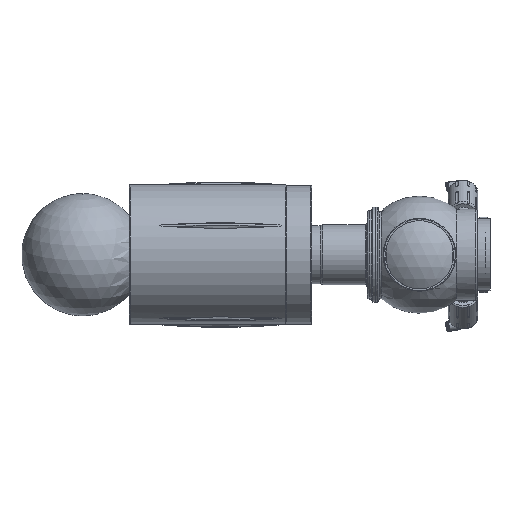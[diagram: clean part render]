
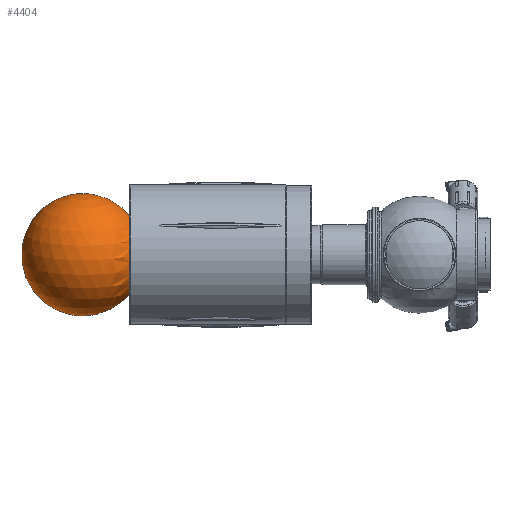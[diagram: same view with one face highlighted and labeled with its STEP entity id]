
A CAD part, left-side view. The second image highlights one B-rep face of the part: STEP entity #4404.
In plain terms, the highlighted spherical face has radius 72.5 mm.
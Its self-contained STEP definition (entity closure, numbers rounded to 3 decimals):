
#174=FACE_BOUND('',#1300,.T.);
#801=SPHERICAL_SURFACE('',#4934,72.5);
#1041=FACE_OUTER_BOUND('',#1299,.T.);
#1299=EDGE_LOOP('',(#3480,#3481));
#1300=EDGE_LOOP('',(#3482));
#1623=CIRCLE('',#4935,72.5);
#1624=CIRCLE('',#4936,46.648);
#1978=VERTEX_POINT('',#7729);
#1979=VERTEX_POINT('',#7730);
#1980=VERTEX_POINT('',#7732);
#2530=EDGE_CURVE('',#1978,#1979,#1623,.T.);
#2531=EDGE_CURVE('',#1980,#1980,#1624,.T.);
#3480=ORIENTED_EDGE('',*,*,#2530,.T.);
#3481=ORIENTED_EDGE('',*,*,#2530,.F.);
#3482=ORIENTED_EDGE('',*,*,#2531,.F.);
#4404=ADVANCED_FACE('',(#1041,#174),#801,.T.);
#4934=AXIS2_PLACEMENT_3D('',#7728,#5839,#5840);
#4935=AXIS2_PLACEMENT_3D('',#7731,#5841,#5842);
#4936=AXIS2_PLACEMENT_3D('',#7733,#5843,#5844);
#5839=DIRECTION('center_axis',(0.,0.,1.));
#5840=DIRECTION('ref_axis',(1.,0.,0.));
#5841=DIRECTION('center_axis',(0.,-1.,0.));
#5842=DIRECTION('ref_axis',(-1.,0.,0.));
#5843=DIRECTION('center_axis',(0.,-1.,0.));
#5844=DIRECTION('ref_axis',(1.,0.,0.));
#7728=CARTESIAN_POINT('Origin',(150.,266.5,0.));
#7729=CARTESIAN_POINT('',(150.,266.5,72.5));
#7730=CARTESIAN_POINT('',(150.,266.5,-72.5));
#7731=CARTESIAN_POINT('Origin',(150.,266.5,0.));
#7732=CARTESIAN_POINT('',(196.648,211.,0.));
#7733=CARTESIAN_POINT('Origin',(150.,211.,0.));
